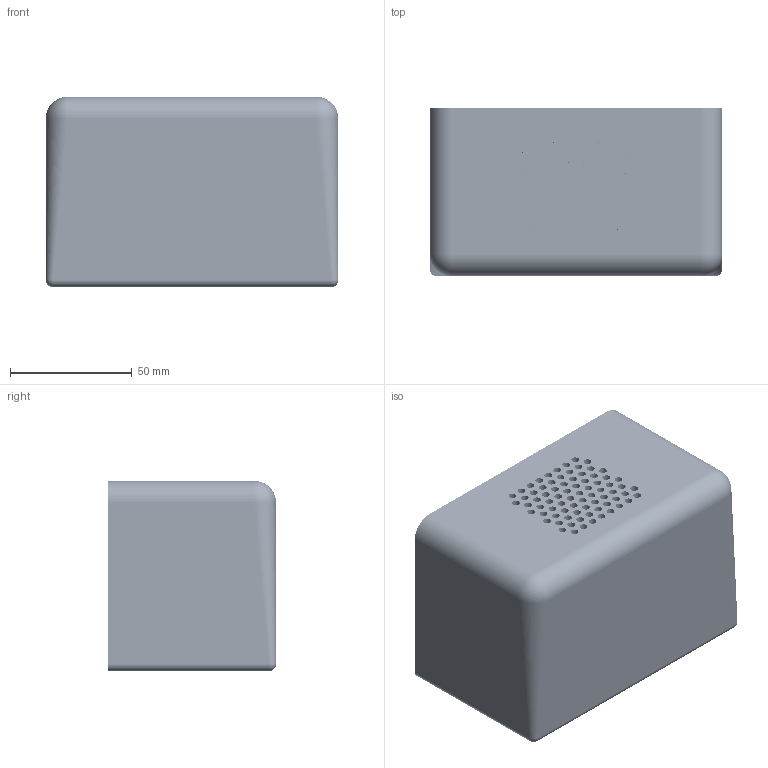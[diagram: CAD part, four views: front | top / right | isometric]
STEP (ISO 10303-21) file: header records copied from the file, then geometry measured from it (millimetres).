
FILE_DESCRIPTION(('BEAREE head - faceted solid, tessellated from the OpenSCAD model'),'2;1');
FILE_NAME('head.step','2026-08-05T18:55:26',('BEAREE'),(''),'tools/step_gen.js','OpenSCAD 2021.01','');
FILE_SCHEMA(('AUTOMOTIVE_DESIGN { 1 0 10303 214 1 1 1 1 }'));
Products named in the file (1): head
Bounding box: 120 x 69 x 77.99 mm (x, y, z)
Volume: 130643.2 mm3; surface area: 85465.7 mm2
Topology: 1 solids, 1 shells, 49200 faces, 73800 edges, 24442 vertices
Faces by surface type: plane 49200
Entity records: 836102 total; most frequent: DIRECTION 172202, ORIENTED_EDGE 147600, VECTOR 73800, LINE 73800, EDGE_CURVE 73800, AXIS2_PLACEMENT_3D 49201, EDGE_LOOP 49200, FACE_OUTER_BOUND 49200
